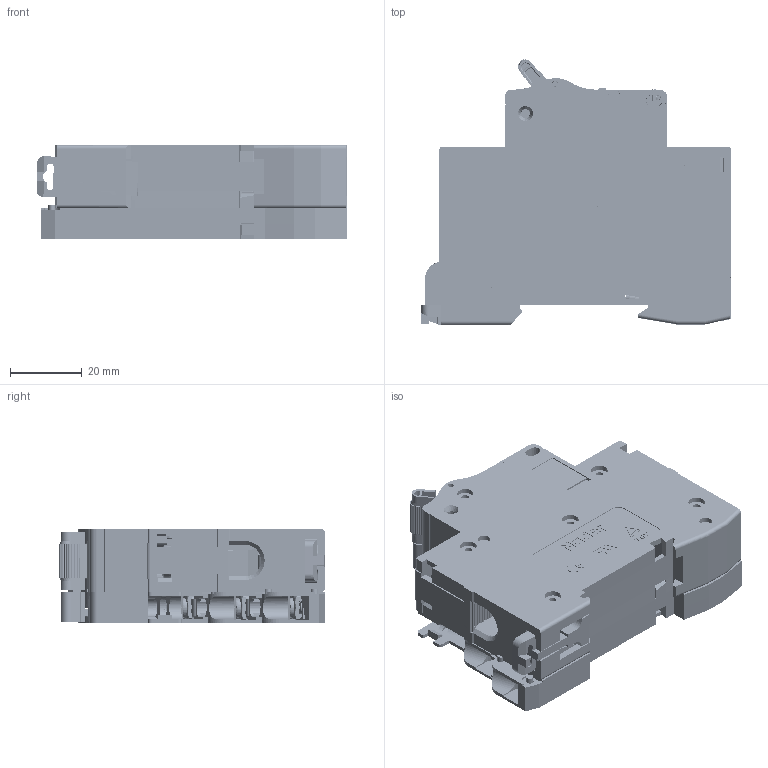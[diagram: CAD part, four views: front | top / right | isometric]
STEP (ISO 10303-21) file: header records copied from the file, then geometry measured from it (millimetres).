
FILE_DESCRIPTION (( 'STEP AP203' ), '1' );
FILE_NAME ('NDB2(Z)-63 1P+OF2.STEP', '2021-07-08T01:07:20', ( '' ), ( '' ), 'SwSTEP 2.0', 'SolidWorks 2018', '' );
FILE_SCHEMA (( 'CONFIG_CONTROL_DESIGN' ));
Length unit declared in the file: millimetre
Products named in the file (54): 8LD.282.164.1~17.STEP.STEP; 8LD.156.146.STEP.STEP; 8LD.550.1163.STEP.STEP; NDB2-63 1P.STEP; 8LD.595.106.STEP.STEP; 8LD.282.141.STEP.STEP; 8LD.615.120.STEP.STEP; 8LD.253.129.STEP.STEP; 8LD.732.108.STEP.STEP; 8LD.907.115.STEP.STEP; 8LD.206.173.STEP.STEP; 8LD.885.106.STEP.STEP; 8LD.612.138.STEP.STEP; 8LD.421.100.STEP.STEP; 5LD.550.1187.STEP.STEP; 8LD.585.142.STEP.STEP; 8LD.315.140.STEP.STEP; 8LD.907.127.STEP.STEP; 8LD.233.125.STEP.STEP; 5LD.615.128.STEP.STEP; 8LD.615.119.STEP.STEP; 2LD.250.104.STEP.STEP; NDB2(Z)-63 1P+OF2; 8LD.503.105.STEP.STEP; 5LD.421.104.1~13.STEP.STEP; OF2 耀倰芞; 5LD.550.165.STEP.STEP; 8LD.522.117.12.STEP.STEP; 5LD.740.106.STEP.STEP; 8LD.551.137.STEP.STEP; 8LD.516.135.STEP.STEP; 8LD.288.142.STEP.STEP; 5LD.850.120.STEP.STEP; 8LD.516.164.STEP.STEP; 8LD.235.112.STEP.STEP; 8LD.948.100.STEP.STEP; 8LD.742.206.STEP.STEP; 8LD.742.182.STEP.STEP; 8LD.239.1018.STEP.STEP; 8LD.550.1182.STEP.STEP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
Assembly tree (71 placements, depth 7):
  NDB2(Z)-63 1P+OF2
    NDB2-63 1P.STEP
      2LD.250.104.STEP.STEP
        5LD.615.128.STEP.STEP
          5LD.520.139.12.STEP.STEP
            5LD.550.1187.STEP.STEP
              8LD.550.1182.STEP.STEP
              8LD.551.137.STEP.STEP
            8LD.612.138.STEP.STEP
            8LD.732.108.STEP.STEP
            8LD.615.119.STEP.STEP
            8LD.522.117.12.STEP.STEP
            8LD.516.164.STEP.STEP
          8LD.235.112.STEP.STEP
          8LD.615.120.STEP.STEP
          8LD.282.164.1~17.STEP.STEP
        5LD.740.106.STEP.STEP
          8LD.742.182.STEP.STEP  x12
          8LD.750.152.STEP.STEP  x4
        5LD.850.120.STEP.STEP
          8LD.948.100.STEP.STEP
          8LD.907.127.STEP.STEP
        5LD.574.103.STEP.STEP  x2
          8LD.516.135.STEP.STEP
          8LD.907.115.STEP.STEP
        5LD.550.165.STEP.STEP
          5LD.421.104.1~13.STEP.STEP
            5LD.516.103.STEP.STEP
              8LD.516.163.STEP.STEP
              8LD.585.142.STEP.STEP
            8LD.595.106.STEP.STEP
            8LD.421.100.STEP.STEP
            8LD.503.105.STEP.STEP
            8LD.550.1163.STEP.STEP
            8LD.239.1018.STEP.STEP
          8LD.039.100.STEP.STEP
          8LD.206.173.STEP.STEP
          8LD.288.142.STEP.STEP
          8LD.270.115.STEP.STEP
          8LD.885.106.STEP.STEP
          8LD.282.141.STEP.STEP
        8LD.024.137.STEP.STEP
        8LD.315.140.STEP.STEP
        8LD.253.129.STEP.STEP
        8LD.321.101.STEP.STEP
        8LD.233.125.STEP.STEP
        8LD.257.111.STEP.STEP
        8LD.234.103.STEP.STEP
        8LD.742.206.STEP.STEP  x2
        8LD.156.146.STEP.STEP  x2
        8LD.143.115.STEP.STEP
        8LD.288.143.STEP.STEP
        8LD.315.141.STEP.STEP  x2
    OF2 耀倰芞
Bounding box: 86.72 x 74.15 x 26.2 mm (x, y, z)
Volume: 58933 mm3; surface area: 103676 mm2
Topology: 104 solids, 106 shells, 8123 faces, 22453 edges, 14701 vertices
Faces by surface type: plane 5061, cylinder 2170, cone 468, bspline 329, torus 82, sphere 13
Entity records: 281185 total; most frequent: CARTESIAN_POINT 97530, ORIENTED_EDGE 38888, DIRECTION 34594, EDGE_CURVE 19444, VECTOR 12852, LINE 12852, VERTEX_POINT 12717, AXIS2_PLACEMENT_3D 10871
